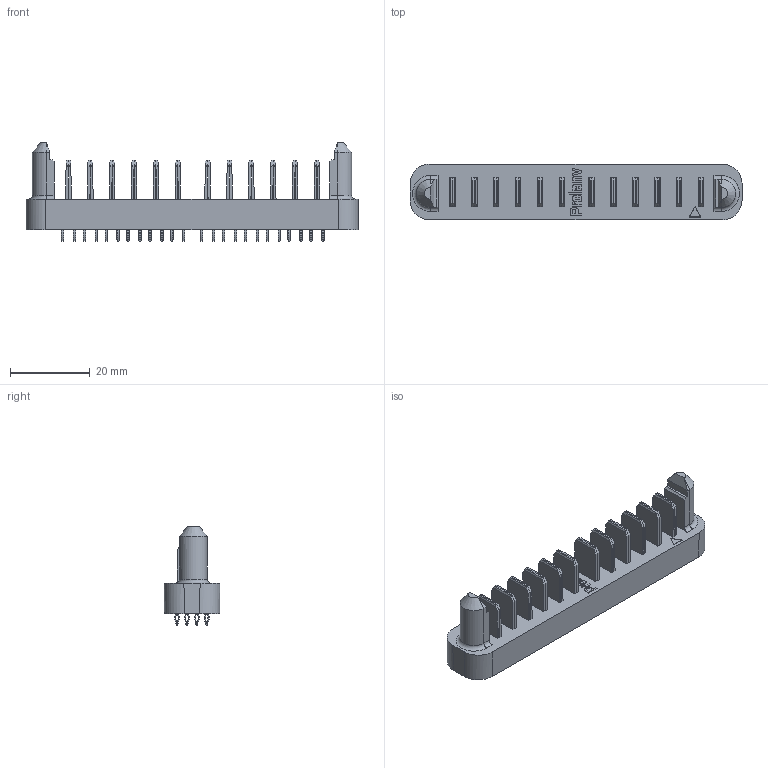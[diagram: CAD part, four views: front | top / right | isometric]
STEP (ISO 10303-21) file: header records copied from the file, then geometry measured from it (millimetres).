
FILE_DESCRIPTION(/* description */ (''),/* implementation_level */ '2;1');
FILE_NAME(/* name */ 'PDC2920F0001-石头档.stp',/* time_stamp */ '2025-01-03T14:28:05+08:00',/* author */ (''),/* organization */ (''),/* preprocessor_version */ 'ST-DEVELOPER v16.7',/* originating_system */ 'SIEMENS PLM Software NX 1946',/* authorisation */ '');
FILE_SCHEMA (('AUTOMOTIVE_DESIGN { 1 0 10303 214 3 1 1 1 }'));
Length unit declared in the file: millimetre
Products named in the file (1): _model1
Bounding box: 83.5 x 14.05 x 24.88 mm (x, y, z)
Volume: 9577.3 mm3; surface area: 9768.7 mm2
Topology: 1 solids, 1 shells, 5442 faces, 13826 edges, 8412 vertices
Faces by surface type: cylinder 2244, plane 1619, torus 1538, extrusion 31, cone 10
Entity records: 202498 total; most frequent: DIRECTION 31353, CARTESIAN_POINT 30257, ORIENTED_EDGE 27652, EDGE_CURVE 13826, AXIS2_PLACEMENT_3D 12614, VERTEX_POINT 8412, CIRCLE 6426, VECTOR 6125
